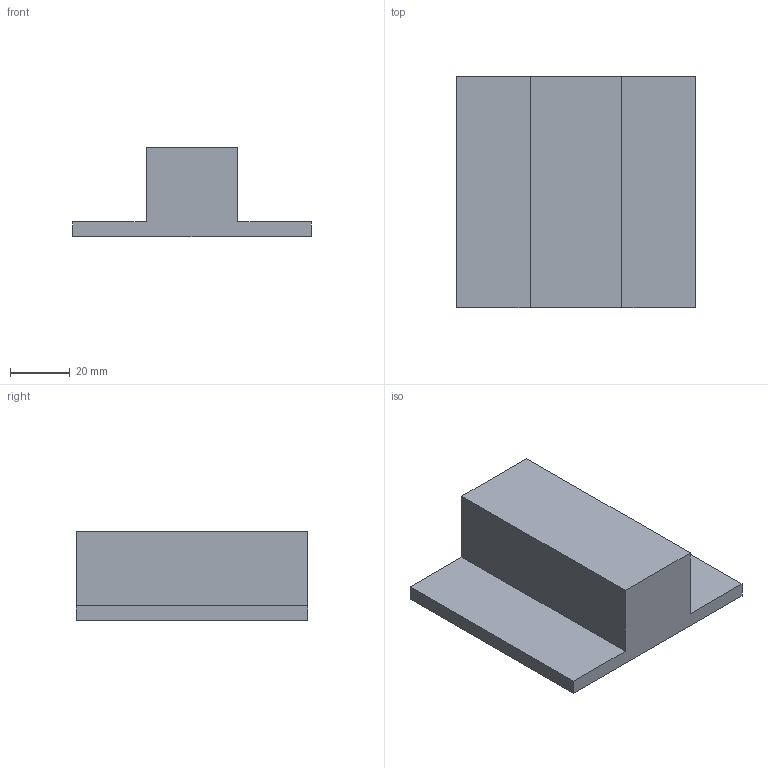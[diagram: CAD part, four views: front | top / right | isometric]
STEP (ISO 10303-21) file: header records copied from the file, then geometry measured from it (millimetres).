
FILE_DESCRIPTION(/* description */ ('STEP AP242','CAx-IF Rec.Pracs.---Representation and Presentation of Product Manufacturing Information (PMI)---4.0---2014-10-13','CAx-IF Rec.Pracs.---3D Tessellated Geometry---0.4---2014-09-14','2;1'),/* implementation_level */ '2;1');
FILE_NAME(/* name */ '65d97b1526fcd7072ec13f5e',/* time_stamp */ '2024-02-24T05:13:57Z',/* author */ (''),/* organization */ (''),/* preprocessor_version */ 'ST-DEVELOPER v19.4',/* originating_system */ ' ',/* authorisation */ ' ');
FILE_SCHEMA (('AP242_MANAGED_MODEL_BASED_3D_ENGINEERING_MIM_LF { 1 0 10303 442 1 1 4 }'));
Length unit declared in the file: metre
Products named in the file (1): Part 1
Bounding box: 80 x 77.51 x 30 mm (x, y, z)
Volume: 90750.1 mm3; surface area: 19393.3 mm2
Topology: 1 solids, 1 shells, 10 faces, 24 edges, 16 vertices
Faces by surface type: plane 10
Entity records: 310 total; most frequent: CARTESIAN_POINT 51, ORIENTED_EDGE 48, DIRECTION 46, EDGE_CURVE 24, LINE 24, VECTOR 24, VERTEX_POINT 16, AXIS2_PLACEMENT_3D 11
